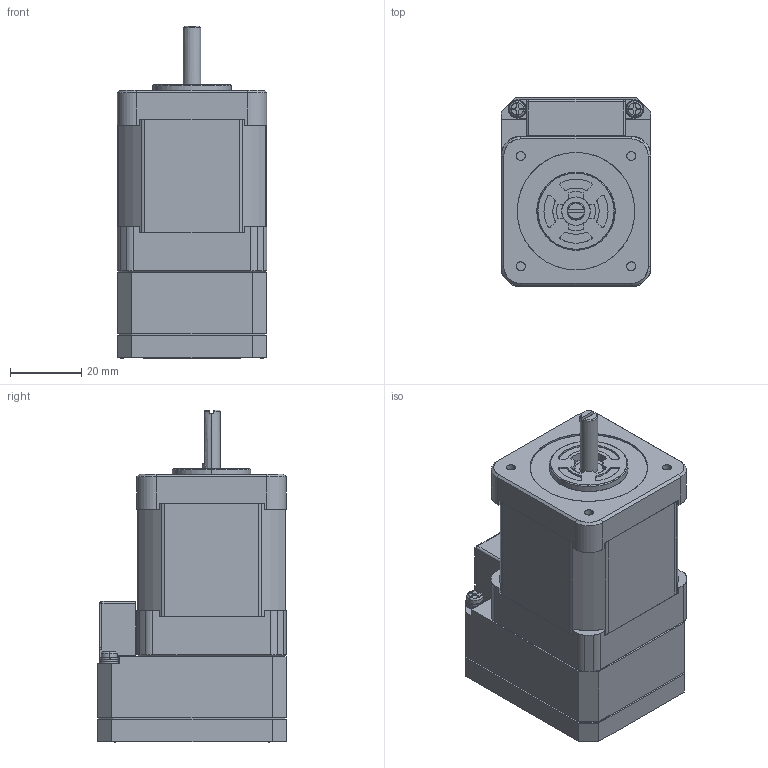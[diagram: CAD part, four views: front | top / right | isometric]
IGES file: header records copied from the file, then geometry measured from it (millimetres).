
Start section: SolidWorks IGES file using analytic representation for surfaces
Global section: file name: C:\Users\render\Documents\CAD Files\CoolmuscleMotors\CM1 Series CAD\CM1-17L-NE\CM1-X-17L30C.IGS; native system: SolidWorks 2011; preprocessor: SolidWorks 2011; author: render; date: 120206.095336; units: millimetre
Bounding box: 42 x 53 x 93.3 mm (x, y, z)
Surface area: 25176.1 mm2 (no closed solid volume)
Topology: 0 solids, 0 shells, 849 faces, 7338 edges, 7330 vertices
Faces by surface type: bspline 605, revolution 244
